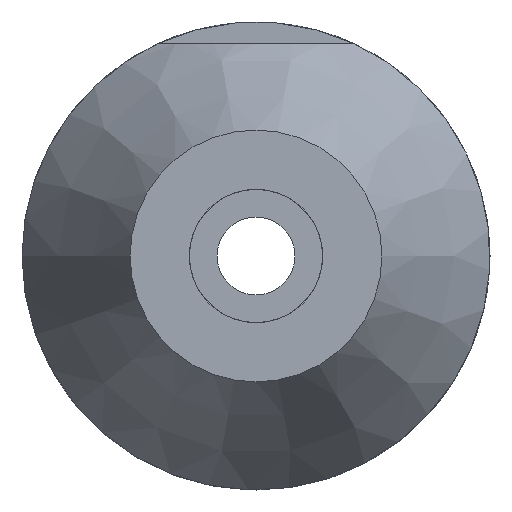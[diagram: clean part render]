
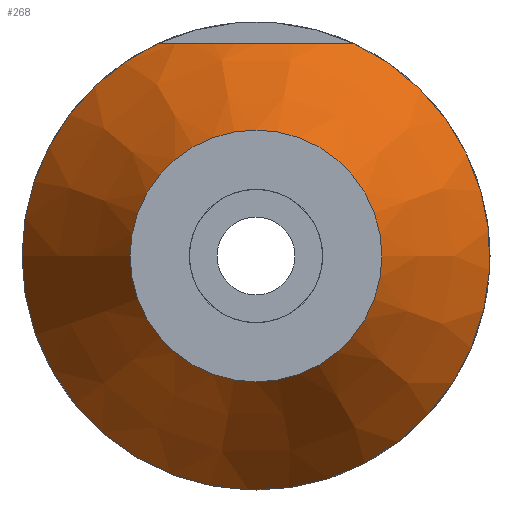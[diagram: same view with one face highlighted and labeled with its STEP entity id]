
A CAD part, left-side view. The second image highlights one B-rep face of the part: STEP entity #268.
In plain terms, the highlighted conical face has half-angle 30 degrees and reference radius 11.536 mm.
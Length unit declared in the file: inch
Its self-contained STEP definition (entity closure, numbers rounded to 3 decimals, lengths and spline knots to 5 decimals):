
#167=CARTESIAN_POINT('',(0.47244,-0.24912,0.53543));
#168=VERTEX_POINT('',#167);
#183=CARTESIAN_POINT('',(0.47244,0.24912,0.53543));
#184=VERTEX_POINT('',#183);
#191=CARTESIAN_POINT('',(0.37697,0.0,0.53543));
#192=VERTEX_POINT('',#191);
#193=CARTESIAN_POINT('',(0.37697,0.0,0.53543));
#194=CARTESIAN_POINT('',(0.37697,0.11846,0.53543));
#195=CARTESIAN_POINT('',(0.47244,0.24912,0.53543));
#203=(BOUNDED_CURVE()B_SPLINE_CURVE(2,(#193,#194,#195),.UNSPECIFIED.,.F.,.U.)B_SPLINE_CURVE_WITH_KNOTS((3,3),(0.68642,1.37285),.UNSPECIFIED.)CURVE()GEOMETRIC_REPRESENTATION_ITEM()RATIONAL_B_SPLINE_CURVE((1.0,1.025,1.0))REPRESENTATION_ITEM(''));
#204=EDGE_CURVE('',#192,#184,#203,.T.);
#206=CARTESIAN_POINT('',(0.47244,-0.24912,0.53543));
#207=CARTESIAN_POINT('',(0.37697,-0.11846,0.53543));
#208=CARTESIAN_POINT('',(0.37697,0.0,0.53543));
#216=(BOUNDED_CURVE()B_SPLINE_CURVE(2,(#206,#207,#208),.UNSPECIFIED.,.F.,.U.)B_SPLINE_CURVE_WITH_KNOTS((3,3),(0.0,0.68642),.UNSPECIFIED.)CURVE()GEOMETRIC_REPRESENTATION_ITEM()RATIONAL_B_SPLINE_CURVE((1.0,1.025,1.0))REPRESENTATION_ITEM(''));
#217=EDGE_CURVE('',#168,#192,#216,.T.);
#241=CARTESIAN_POINT('',(0.23622,0.0,0.0));
#242=DIRECTION('',(1.0,0.0,0.0));
#243=DIRECTION('',(0.0,1.0,0.0));
#244=AXIS2_PLACEMENT_3D('',#241,#242,#243);
#245=CONICAL_SURFACE('',#244,0.45417,30.);
#246=CARTESIAN_POINT('',(0.0,0.31779,0.0));
#247=VERTEX_POINT('',#246);
#248=CARTESIAN_POINT('',(0.0,0.0,0.0));
#249=DIRECTION('',(1.0,0.0,0.0));
#250=DIRECTION('',(0.0,1.0,0.0));
#251=AXIS2_PLACEMENT_3D('',#248,#249,#250);
#252=CIRCLE('',#251,0.31779);
#253=EDGE_CURVE('',#247,#247,#252,.T.);
#254=ORIENTED_EDGE('',*,*,#253,.T.);
#255=EDGE_LOOP('',(#254));
#256=FACE_OUTER_BOUND('',#255,.T.);
#257=ORIENTED_EDGE('',*,*,#217,.T.);
#258=ORIENTED_EDGE('',*,*,#204,.T.);
#259=CARTESIAN_POINT('',(0.47244,0.0,0.0));
#260=DIRECTION('',(1.0,0.0,0.0));
#261=DIRECTION('',(0.0,1.0,0.0));
#262=AXIS2_PLACEMENT_3D('',#259,#260,#261);
#263=CIRCLE('',#262,0.59055);
#264=EDGE_CURVE('',#168,#184,#263,.T.);
#265=ORIENTED_EDGE('',*,*,#264,.F.);
#266=EDGE_LOOP('',(#257,#258,#265));
#267=FACE_BOUND('',#266,.T.);
#268=ADVANCED_FACE('',(#256,#267),#245,.T.);
